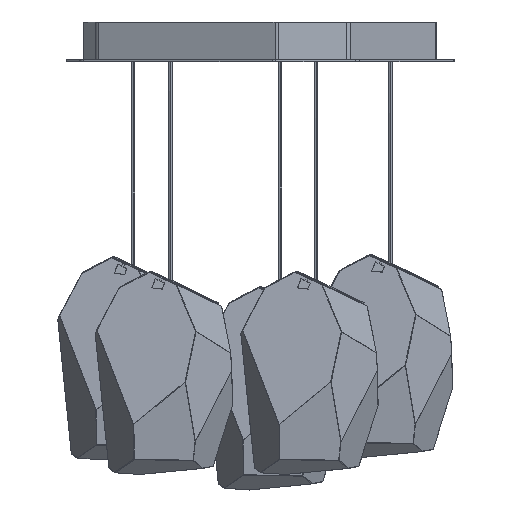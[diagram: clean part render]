
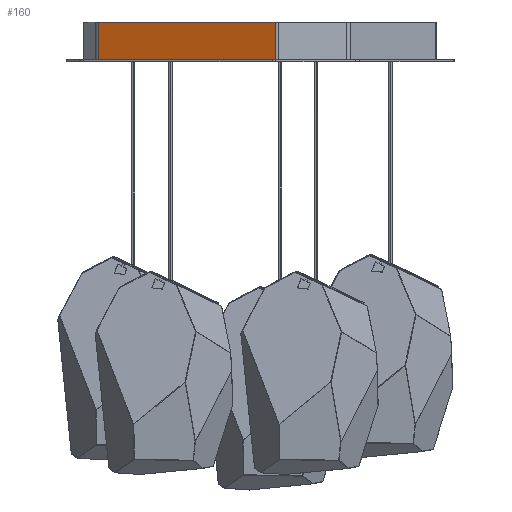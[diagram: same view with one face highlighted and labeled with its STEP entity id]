
A CAD part, front view. The second image highlights one B-rep face of the part: STEP entity #160.
In plain terms, the highlighted free-form (B-spline) face has degree [1, 1] with [2, 2] control points.
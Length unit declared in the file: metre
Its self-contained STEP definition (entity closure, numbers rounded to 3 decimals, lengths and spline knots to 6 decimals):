
#160=ADVANCED_FACE('',(#537),#12252,.T.);
#537=FACE_OUTER_BOUND('',#914,.T.);
#914=EDGE_LOOP('',(#1429,#1430,#1431,#1432));
#1429=ORIENTED_EDGE('',*,*,#8350,.T.);
#1430=ORIENTED_EDGE('',*,*,#8349,.F.);
#1431=ORIENTED_EDGE('',*,*,#8271,.F.);
#1432=ORIENTED_EDGE('',*,*,#8351,.T.);
#3650=PCURVE('',#12237,#5498);
#3784=PCURVE('',#12022,#5632);
#3785=PCURVE('',#12252,#5633);
#3786=PCURVE('',#12252,#5634);
#3787=PCURVE('',#12252,#5635);
#3788=PCURVE('',#12252,#5636);
#3790=PCURVE('',#12023,#5638);
#3839=PCURVE('',#12256,#5687);
#5498=DEFINITIONAL_REPRESENTATION('',(#9207),#26837);
#5632=DEFINITIONAL_REPRESENTATION('',(#9382),#26837);
#5633=DEFINITIONAL_REPRESENTATION('',(#9384),#26837);
#5634=DEFINITIONAL_REPRESENTATION('',(#9385),#26837);
#5635=DEFINITIONAL_REPRESENTATION('',(#9386),#26837);
#5636=DEFINITIONAL_REPRESENTATION('',(#9388),#26837);
#5638=DEFINITIONAL_REPRESENTATION('',(#9390),#26837);
#5687=DEFINITIONAL_REPRESENTATION('',(#9435),#26837);
#7345=SURFACE_CURVE('',#9206,(#3650,#3787),.PCURVE_S1.);
#7423=SURFACE_CURVE('',#9381,(#3784,#3786),.PCURVE_S1.);
#7424=SURFACE_CURVE('',#9383,(#3785,#3839),.PCURVE_S1.);
#7425=SURFACE_CURVE('',#9387,(#3788,#3790),.PCURVE_S1.);
#8271=EDGE_CURVE('',#11462,#11463,#7345,.T.);
#8349=EDGE_CURVE('',#11463,#11512,#7423,.T.);
#8350=EDGE_CURVE('',#11513,#11512,#7424,.T.);
#8351=EDGE_CURVE('',#11462,#11513,#7425,.T.);
#9206=B_SPLINE_CURVE_WITH_KNOTS('',1,(#12983,#12984),.UNSPECIFIED.,.F.,
 .F.,(2,2),(0.,175.363718),.UNSPECIFIED.);
#9207=B_SPLINE_CURVE_WITH_KNOTS('',1,(#12985,#12986),.UNSPECIFIED.,.F.,
 .F.,(2,2),(0.,175.363718),.UNSPECIFIED.);
#9381=B_SPLINE_CURVE_WITH_KNOTS('',1,(#13444,#13445),.UNSPECIFIED.,.F.,
 .F.,(2,2),(-34.,0.),.UNSPECIFIED.);
#9382=B_SPLINE_CURVE_WITH_KNOTS('',1,(#13446,#13447),.UNSPECIFIED.,.F.,
 .F.,(2,2),(-34.,0.),.UNSPECIFIED.);
#9383=B_SPLINE_CURVE_WITH_KNOTS('',1,(#13448,#13449),.UNSPECIFIED.,.F.,
 .F.,(2,2),(0.,175.363718),.UNSPECIFIED.);
#9384=B_SPLINE_CURVE_WITH_KNOTS('',1,(#13450,#13451),.UNSPECIFIED.,.F.,
 .F.,(2,2),(0.,175.363718),.UNSPECIFIED.);
#9385=B_SPLINE_CURVE_WITH_KNOTS('',1,(#13452,#13453),.UNSPECIFIED.,.F.,
 .F.,(2,2),(-34.,0.),.UNSPECIFIED.);
#9386=B_SPLINE_CURVE_WITH_KNOTS('',1,(#13454,#13455),.UNSPECIFIED.,.F.,
 .F.,(2,2),(0.,175.363718),.UNSPECIFIED.);
#9387=B_SPLINE_CURVE_WITH_KNOTS('',1,(#13456,#13457),.UNSPECIFIED.,.F.,
 .F.,(2,2),(-34.,0.),.UNSPECIFIED.);
#9388=B_SPLINE_CURVE_WITH_KNOTS('',1,(#13458,#13459),.UNSPECIFIED.,.F.,
 .F.,(2,2),(-34.,0.),.UNSPECIFIED.);
#9390=B_SPLINE_CURVE_WITH_KNOTS('',1,(#13465,#13466),.UNSPECIFIED.,.F.,
 .F.,(2,2),(-34.,0.),.UNSPECIFIED.);
#9435=B_SPLINE_CURVE_WITH_KNOTS('',1,(#13597,#13598),.UNSPECIFIED.,.F.,
 .F.,(2,2),(0.,175.363718),.UNSPECIFIED.);
#11462=VERTEX_POINT('',#12852);
#11463=VERTEX_POINT('',#12853);
#11512=VERTEX_POINT('',#12902);
#11513=VERTEX_POINT('',#12903);
#12022=(
BOUNDED_SURFACE()
B_SPLINE_SURFACE(2,1,((#12745,#12746),(#12747,#12748),(#12749,#12750),(#12751,
#12752),(#12753,#12754),(#12755,#12756),(#12757,#12758),(#12759,#12760),
(#12761,#12762)),.UNSPECIFIED.,.T.,.F.,.F.)
B_SPLINE_SURFACE_WITH_KNOTS((3,2,2,2,3),(2,2),(0.,1.570796,3.141593,
4.712389,6.283185),(0.,41.04),.UNSPECIFIED.)
GEOMETRIC_REPRESENTATION_ITEM()
RATIONAL_B_SPLINE_SURFACE(((1.,1.),(0.707,0.707),
(1.,1.),(0.707,0.707),(1.,1.),(0.707,
0.707),(1.,1.),(0.707,0.707),(1.,1.)))
REPRESENTATION_ITEM('')
SURFACE()
);
#12023=(
BOUNDED_SURFACE()
B_SPLINE_SURFACE(2,1,((#12767,#12768),(#12769,#12770),(#12771,#12772),(#12773,
#12774),(#12775,#12776),(#12777,#12778),(#12779,#12780),(#12781,#12782),
(#12783,#12784)),.UNSPECIFIED.,.T.,.F.,.F.)
B_SPLINE_SURFACE_WITH_KNOTS((3,2,2,2,3),(2,2),(0.,1.570796,3.141593,
4.712389,6.283185),(0.,41.04),.UNSPECIFIED.)
GEOMETRIC_REPRESENTATION_ITEM()
RATIONAL_B_SPLINE_SURFACE(((1.,1.),(0.707,0.707),
(1.,1.),(0.707,0.707),(1.,1.),(0.707,
0.707),(1.,1.),(0.707,0.707),(1.,1.)))
REPRESENTATION_ITEM('')
SURFACE()
);
#12237=B_SPLINE_SURFACE_WITH_KNOTS('',1,1,((#12469,#12470),(#12471,#12472)),
 .UNSPECIFIED.,.F.,.F.,.F.,(2,2),(2,2),(-194.119487,189.554058),
(-169.446671,167.149092),.UNSPECIFIED.);
#12252=B_SPLINE_SURFACE_WITH_KNOTS('',1,1,((#12763,#12764),(#12765,#12766)),
 .UNSPECIFIED.,.F.,.F.,.F.,(2,2),(2,2),(-17.695439,193.059157),
(-3.52,37.52),.UNSPECIFIED.);
#12256=B_SPLINE_SURFACE_WITH_KNOTS('',1,1,((#12833,#12834),(#12835,#12836)),
 .UNSPECIFIED.,.F.,.F.,.F.,(2,2),(2,2),(-169.446671,167.149092),
(-194.119487,189.554058),.UNSPECIFIED.);
#12469=CARTESIAN_POINT('',(191.308465,-170.729394,-32.));
#12470=CARTESIAN_POINT('',(191.308465,165.86637,-32.));
#12471=CARTESIAN_POINT('',(-192.36508,-170.729394,-32.));
#12472=CARTESIAN_POINT('',(-192.36508,165.86637,-32.));
#12745=CARTESIAN_POINT('',(-149.563764,-64.422208,5.52));
#12746=CARTESIAN_POINT('',(-149.563764,-64.422208,-35.52));
#12747=CARTESIAN_POINT('',(-149.563764,-59.422208,5.52));
#12748=CARTESIAN_POINT('',(-149.563764,-59.422208,-35.52));
#12749=CARTESIAN_POINT('',(-144.563764,-59.422208,5.52));
#12750=CARTESIAN_POINT('',(-144.563764,-59.422208,-35.52));
#12751=CARTESIAN_POINT('',(-139.563764,-59.422208,5.52));
#12752=CARTESIAN_POINT('',(-139.563764,-59.422208,-35.52));
#12753=CARTESIAN_POINT('',(-139.563764,-64.422208,5.52));
#12754=CARTESIAN_POINT('',(-139.563764,-64.422208,-35.52));
#12755=CARTESIAN_POINT('',(-139.563764,-69.422208,5.52));
#12756=CARTESIAN_POINT('',(-139.563764,-69.422208,-35.52));
#12757=CARTESIAN_POINT('',(-144.563764,-69.422208,5.52));
#12758=CARTESIAN_POINT('',(-144.563764,-69.422208,-35.52));
#12759=CARTESIAN_POINT('',(-149.563764,-69.422208,5.52));
#12760=CARTESIAN_POINT('',(-149.563764,-69.422208,-35.52));
#12761=CARTESIAN_POINT('',(-149.563764,-64.422208,5.52));
#12762=CARTESIAN_POINT('',(-149.563764,-64.422208,-35.52));
#12763=CARTESIAN_POINT('',(28.883995,-149.3499,5.52));
#12764=CARTESIAN_POINT('',(28.883995,-149.3499,-35.52));
#12765=CARTESIAN_POINT('',(-162.734261,-61.600578,5.52));
#12766=CARTESIAN_POINT('',(-162.734261,-61.600578,-35.52));
#12767=CARTESIAN_POINT('',(9.877076,-137.436261,5.52));
#12768=CARTESIAN_POINT('',(9.877076,-137.436261,-35.52));
#12769=CARTESIAN_POINT('',(9.877076,-132.436261,5.52));
#12770=CARTESIAN_POINT('',(9.877076,-132.436261,-35.52));
#12771=CARTESIAN_POINT('',(14.877076,-132.436261,5.52));
#12772=CARTESIAN_POINT('',(14.877076,-132.436261,-35.52));
#12773=CARTESIAN_POINT('',(19.877076,-132.436261,5.52));
#12774=CARTESIAN_POINT('',(19.877076,-132.436261,-35.52));
#12775=CARTESIAN_POINT('',(19.877076,-137.436261,5.52));
#12776=CARTESIAN_POINT('',(19.877076,-137.436261,-35.52));
#12777=CARTESIAN_POINT('',(19.877076,-142.436261,5.52));
#12778=CARTESIAN_POINT('',(19.877076,-142.436261,-35.52));
#12779=CARTESIAN_POINT('',(14.877076,-142.436261,5.52));
#12780=CARTESIAN_POINT('',(14.877076,-142.436261,-35.52));
#12781=CARTESIAN_POINT('',(9.877076,-142.436261,5.52));
#12782=CARTESIAN_POINT('',(9.877076,-142.436261,-35.52));
#12783=CARTESIAN_POINT('',(9.877076,-137.436261,5.52));
#12784=CARTESIAN_POINT('',(9.877076,-137.436261,-35.52));
#12833=CARTESIAN_POINT('',(191.308465,-170.729394,2.));
#12834=CARTESIAN_POINT('',(-192.36508,-170.729394,2.));
#12835=CARTESIAN_POINT('',(191.308465,165.86637,2.));
#12836=CARTESIAN_POINT('',(-192.36508,165.86637,2.));
#12852=CARTESIAN_POINT('',(12.795287,-141.982266,-32.));
#12853=CARTESIAN_POINT('',(-146.645553,-68.968212,-32.));
#12902=CARTESIAN_POINT('',(-146.645553,-68.968212,2.));
#12903=CARTESIAN_POINT('',(12.795287,-141.982266,2.));
#12983=CARTESIAN_POINT('',(12.795287,-141.982266,-32.));
#12984=CARTESIAN_POINT('',(-146.645553,-68.968212,-32.));
#12985=CARTESIAN_POINT('',(-15.606,-140.7));
#12986=CARTESIAN_POINT('',(143.835,-67.685));
#13444=CARTESIAN_POINT('',(-146.645553,-68.968212,-32.));
#13445=CARTESIAN_POINT('',(-146.645553,-68.968212,2.));
#13446=CARTESIAN_POINT('',(5.157,37.52));
#13447=CARTESIAN_POINT('',(5.157,3.52));
#13448=CARTESIAN_POINT('',(12.795287,-141.982266,2.));
#13449=CARTESIAN_POINT('',(-146.645553,-68.968212,2.));
#13450=CARTESIAN_POINT('',(0.,0.));
#13451=CARTESIAN_POINT('',(175.364,0.));
#13452=CARTESIAN_POINT('',(175.364,34.));
#13453=CARTESIAN_POINT('',(175.364,0.));
#13454=CARTESIAN_POINT('',(0.,34.));
#13455=CARTESIAN_POINT('',(175.364,34.));
#13456=CARTESIAN_POINT('',(12.795287,-141.982266,-32.));
#13457=CARTESIAN_POINT('',(12.795287,-141.982266,2.));
#13458=CARTESIAN_POINT('',(0.,34.));
#13459=CARTESIAN_POINT('',(0.,0.));
#13465=CARTESIAN_POINT('',(5.157,37.52));
#13466=CARTESIAN_POINT('',(5.157,3.52));
#13597=CARTESIAN_POINT('',(-140.7,-15.606));
#13598=CARTESIAN_POINT('',(-67.685,143.835));
#26837=(
GEOMETRIC_REPRESENTATION_CONTEXT(2)
PARAMETRIC_REPRESENTATION_CONTEXT()
REPRESENTATION_CONTEXT('pspace','')
);
